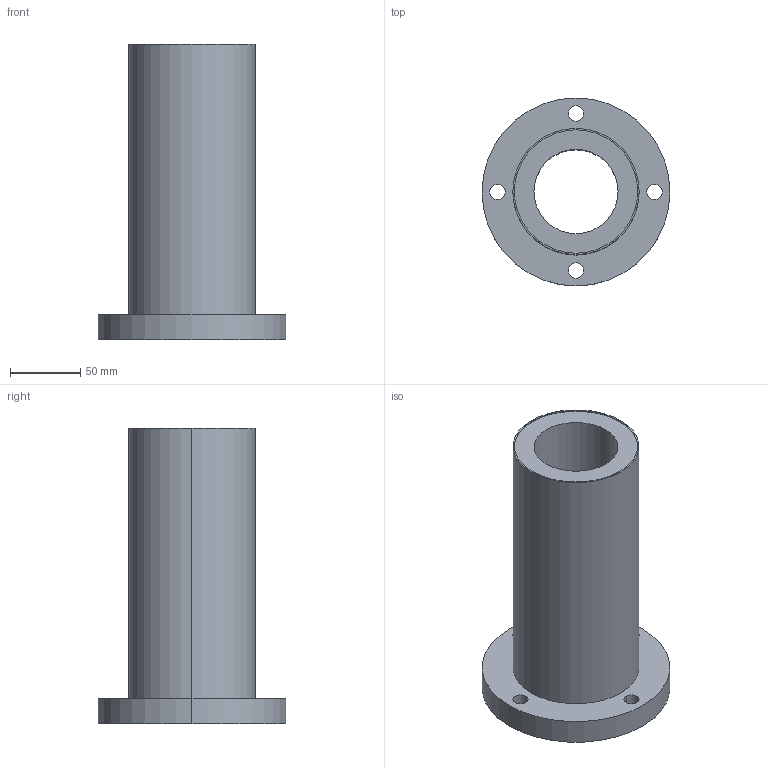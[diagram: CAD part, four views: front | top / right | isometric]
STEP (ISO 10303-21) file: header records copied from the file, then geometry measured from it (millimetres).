
FILE_DESCRIPTION((''),'2;1');
FILE_NAME('C:\Documents and Settings\ｿﾀﾀ蠑ｷ1\ｹﾙﾅﾁ ﾈｭｸ饅\ｺﾎﾇｰﾆﾄﾀﾏ\ﾁｦﾇｰ\LMF__LUU\LMF60LUU.stp','2005-06-15T09:44:53',('ｿﾀﾀ蠑ｷ1'),(''),'Autodesk Inventor 9','Autodesk Inventor 9','');
FILE_SCHEMA(('AUTOMOTIVE_DESIGN { 1 0 10303 214 1 1 1 1 }'));
Length unit declared in the file: millimetre
Products named in the file (1): LMF__
Bounding box: 134 x 134 x 211 mm (x, y, z)
Volume: 868279.7 mm3; surface area: 127178.6 mm2
Topology: 1 solids, 1 shells, 38 faces, 84 edges, 56 vertices
Faces by surface type: cylinder 28, plane 10
Entity records: 1127 total; most frequent: DIRECTION 218, CARTESIAN_POINT 179, ORIENTED_EDGE 168, AXIS2_PLACEMENT_3D 95, EDGE_CURVE 84, VERTEX_POINT 56, CIRCLE 56, EDGE_LOOP 56
